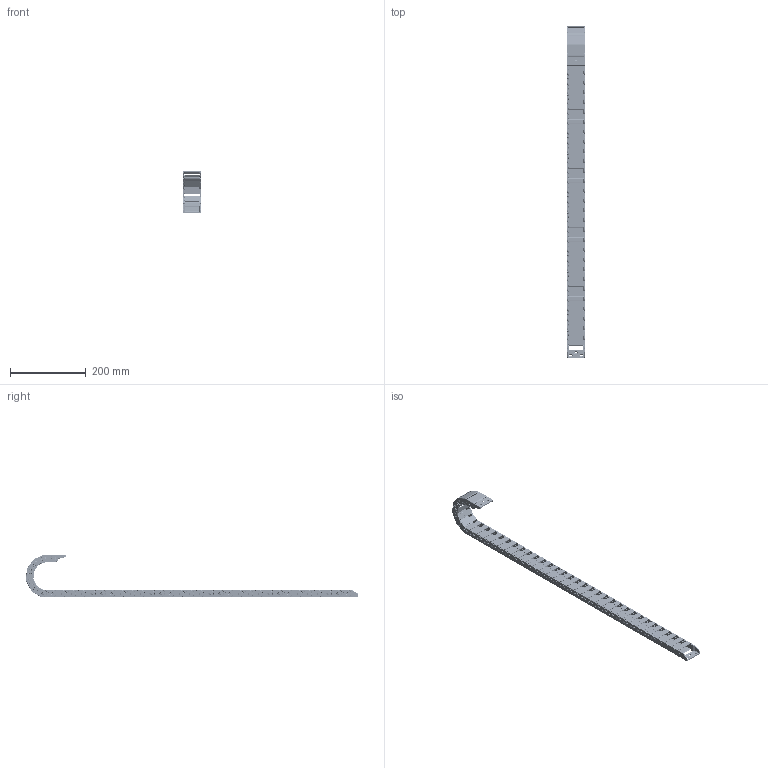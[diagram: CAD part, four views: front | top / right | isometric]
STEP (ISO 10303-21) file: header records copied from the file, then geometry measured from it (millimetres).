
FILE_DESCRIPTION(/* description */ (''),/* implementation_level */ '2;1');
FILE_NAME(/* name */ 'BFCK15x40R48.prt.stp',/* time_stamp */ '2022-11-17T13:26:02+08:00',/* author */ (''),/* organization */ (''),/* preprocessor_version */ 'ST-DEVELOPER v16',/* originating_system */ 'SIEMENS PLM Software NX 10.0',/* authorisation */ '');
FILE_SCHEMA (('CONFIG_CONTROL_DESIGN'));
Products named in the file (1): BFCK15x40R48
Bounding box: 48.96 x 877.69 x 113.2 mm (x, y, z)
Volume: 246069.4 mm3; surface area: 290210 mm2
Topology: 76 solids, 76 shells, 12095 faces, 30624 edges, 18136 vertices
Faces by surface type: cylinder 5202, plane 4143, torus 1009, sphere 903, bspline 707, cone 88, extrusion 43
Full cylindrical faces by diameter (mm): 6 x2, 6.05 x2, 6.058 x148
Entity records: 379979 total; most frequent: CARTESIAN_POINT 96404, DIRECTION 60455, ORIENTED_EDGE 58914, EDGE_CURVE 29457, AXIS2_PLACEMENT_3D 22303, VERTEX_POINT 17949, VECTOR 15849, LINE 15806
